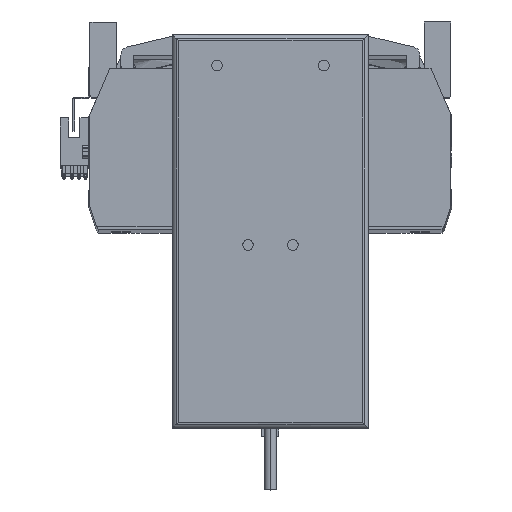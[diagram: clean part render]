
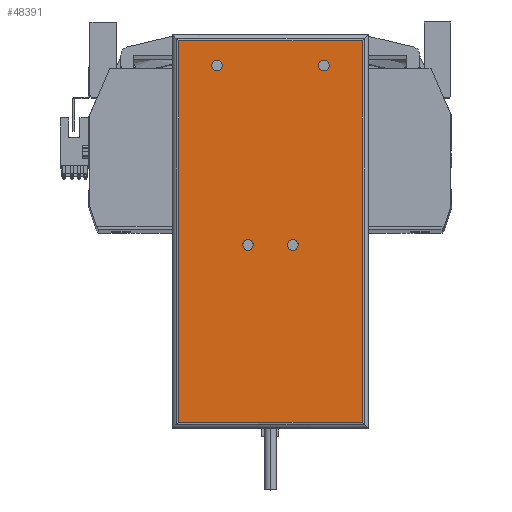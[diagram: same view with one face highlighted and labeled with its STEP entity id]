
A CAD part, top view. The second image highlights one B-rep face of the part: STEP entity #48391.
In plain terms, the highlighted planar face has unit normal (0, 0, 1) as drawn and (0, 0, -1) by its records, which use the part's own axes.
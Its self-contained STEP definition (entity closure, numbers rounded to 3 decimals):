
#169 = VERTEX_POINT ( 'NONE', #14325 ) ;
#739 = DIRECTION ( 'NONE',  ( 0., 0., -1. ) ) ;
#1176 = DIRECTION ( 'NONE',  ( 1., 0., 0. ) ) ;
#1339 = DIRECTION ( 'NONE',  ( 0., 0., -1. ) ) ;
#1452 = CARTESIAN_POINT ( 'NONE',  ( 25., 77.75, 0. ) ) ;
#1698 = LINE ( 'NONE', #16961, #8239 ) ;
#1782 = CARTESIAN_POINT ( 'NONE',  ( -43., -92.25, 0. ) ) ;
#1816 = EDGE_CURVE ( 'NONE', #169, #42967, #28021, .T. ) ;
#2128 = CARTESIAN_POINT ( 'NONE',  ( 43., 89.25, 0. ) ) ;
#2255 = CIRCLE ( 'NONE', #12452, 2.5 ) ;
#2586 = AXIS2_PLACEMENT_3D ( 'NONE', #10002, #13606, #20740 ) ;
#2898 = EDGE_CURVE ( 'NONE', #42967, #169, #26247, .T. ) ;
#2964 = VERTEX_POINT ( 'NONE', #37256 ) ;
#3842 = VERTEX_POINT ( 'NONE', #32865 ) ;
#4220 = VERTEX_POINT ( 'NONE', #45737 ) ;
#5136 = ORIENTED_EDGE ( 'NONE', *, *, #36233, .F. ) ;
#5232 = FACE_BOUND ( 'NONE', #37351, .T. ) ;
#5466 = AXIS2_PLACEMENT_3D ( 'NONE', #23168, #34629, #11946 ) ;
#5596 = VERTEX_POINT ( 'NONE', #36501 ) ;
#7607 = FACE_BOUND ( 'NONE', #43271, .T. ) ;
#8148 = EDGE_CURVE ( 'NONE', #3842, #4220, #19847, .T. ) ;
#8150 = ORIENTED_EDGE ( 'NONE', *, *, #23189, .F. ) ;
#8239 = VECTOR ( 'NONE', #43809, 1000. ) ;
#8606 = ORIENTED_EDGE ( 'NONE', *, *, #8148, .F. ) ;
#10002 = CARTESIAN_POINT ( 'NONE',  ( -10.5, -6.25, 0. ) ) ;
#10656 = EDGE_LOOP ( 'NONE', ( #44382, #17703 ) ) ;
#10772 = EDGE_CURVE ( 'NONE', #21606, #39843, #2255, .T. ) ;
#10835 = EDGE_CURVE ( 'NONE', #45869, #5596, #30772, .T. ) ;
#11168 = AXIS2_PLACEMENT_3D ( 'NONE', #35545, #12487, #42807 ) ;
#11226 = ORIENTED_EDGE ( 'NONE', *, *, #10835, .T. ) ;
#11946 = DIRECTION ( 'NONE',  ( -1., 0., 0. ) ) ;
#12292 = ORIENTED_EDGE ( 'NONE', *, *, #27124, .T. ) ;
#12452 = AXIS2_PLACEMENT_3D ( 'NONE', #1452, #39571, #20162 ) ;
#12487 = DIRECTION ( 'NONE',  ( 0., 0., -1. ) ) ;
#13516 = EDGE_LOOP ( 'NONE', ( #31485, #34061, #11226, #12292 ) ) ;
#13606 = DIRECTION ( 'NONE',  ( 0., 0., -1. ) ) ;
#13722 = AXIS2_PLACEMENT_3D ( 'NONE', #27915, #739, #34898 ) ;
#14245 = CARTESIAN_POINT ( 'NONE',  ( -13., -6.25, 0. ) ) ;
#14325 = CARTESIAN_POINT ( 'NONE',  ( -27.5, 77.75, 0. ) ) ;
#16919 = CIRCLE ( 'NONE', #2586, 2.5 ) ;
#16961 = CARTESIAN_POINT ( 'NONE',  ( 43., -92.25, 0. ) ) ;
#17202 = CIRCLE ( 'NONE', #5466, 2.5 ) ;
#17642 = FACE_BOUND ( 'NONE', #10656, .T. ) ;
#17703 = ORIENTED_EDGE ( 'NONE', *, *, #24350, .F. ) ;
#19663 = EDGE_CURVE ( 'NONE', #19726, #2964, #16919, .T. ) ;
#19726 = VERTEX_POINT ( 'NONE', #14245 ) ;
#19847 = CIRCLE ( 'NONE', #11168, 2.5 ) ;
#19929 = LINE ( 'NONE', #46543, #44244 ) ;
#20050 = CARTESIAN_POINT ( 'NONE',  ( -25., 77.75, 0. ) ) ;
#20162 = DIRECTION ( 'NONE',  ( -1., 0., 0. ) ) ;
#20740 = DIRECTION ( 'NONE',  ( -1., 0., 0. ) ) ;
#20857 = AXIS2_PLACEMENT_3D ( 'NONE', #41083, #44249, #48004 ) ;
#21606 = VERTEX_POINT ( 'NONE', #27991 ) ;
#21985 = CARTESIAN_POINT ( 'NONE',  ( -25., 77.75, 0. ) ) ;
#22317 = CARTESIAN_POINT ( 'NONE',  ( 43., -89.25, 0. ) ) ;
#23168 = CARTESIAN_POINT ( 'NONE',  ( 10.5, -6.25, 0. ) ) ;
#23189 = EDGE_CURVE ( 'NONE', #4220, #3842, #17202, .T. ) ;
#23222 = CARTESIAN_POINT ( 'NONE',  ( 22.5, 77.75, 0. ) ) ;
#24350 = EDGE_CURVE ( 'NONE', #2964, #19726, #31406, .T. ) ;
#24771 = VECTOR ( 'NONE', #45052, 1000. ) ;
#26247 = CIRCLE ( 'NONE', #31093, 2.5 ) ;
#26663 = CARTESIAN_POINT ( 'NONE',  ( -43., -89.25, 0. ) ) ;
#27124 = EDGE_CURVE ( 'NONE', #5596, #32667, #19929, .T. ) ;
#27174 = VECTOR ( 'NONE', #46981, 1000. ) ;
#27915 = CARTESIAN_POINT ( 'NONE',  ( -10.5, -6.25, 0. ) ) ;
#27991 = CARTESIAN_POINT ( 'NONE',  ( 27.5, 77.75, 0. ) ) ;
#28021 = CIRCLE ( 'NONE', #45631, 2.5 ) ;
#28983 = CIRCLE ( 'NONE', #46429, 2.5 ) ;
#29648 = PLANE ( 'NONE',  #20857 ) ;
#30131 = FACE_BOUND ( 'NONE', #45320, .T. ) ;
#30772 = LINE ( 'NONE', #1782, #27174 ) ;
#31093 = AXIS2_PLACEMENT_3D ( 'NONE', #20050, #1339, #42935 ) ;
#31119 = DIRECTION ( 'NONE',  ( 0., 0., -1. ) ) ;
#31406 = CIRCLE ( 'NONE', #13722, 2.5 ) ;
#31485 = ORIENTED_EDGE ( 'NONE', *, *, #47737, .T. ) ;
#32667 = VERTEX_POINT ( 'NONE', #2128 ) ;
#32865 = CARTESIAN_POINT ( 'NONE',  ( 13., -6.25, 0. ) ) ;
#34061 = ORIENTED_EDGE ( 'NONE', *, *, #36814, .T. ) ;
#34324 = LINE ( 'NONE', #41266, #24771 ) ;
#34629 = DIRECTION ( 'NONE',  ( 0., 0., -1. ) ) ;
#34898 = DIRECTION ( 'NONE',  ( -1., 0., 0. ) ) ;
#35424 = ORIENTED_EDGE ( 'NONE', *, *, #10772, .F. ) ;
#35545 = CARTESIAN_POINT ( 'NONE',  ( 10.5, -6.25, 0. ) ) ;
#36233 = EDGE_CURVE ( 'NONE', #39843, #21606, #28983, .T. ) ;
#36501 = CARTESIAN_POINT ( 'NONE',  ( -43., 89.25, 0. ) ) ;
#36770 = DIRECTION ( 'NONE',  ( 0., 0., -1. ) ) ;
#36814 = EDGE_CURVE ( 'NONE', #48464, #45869, #34324, .T. ) ;
#37256 = CARTESIAN_POINT ( 'NONE',  ( -8., -6.25, 0. ) ) ;
#37351 = EDGE_LOOP ( 'NONE', ( #8150, #8606 ) ) ;
#37411 = DIRECTION ( 'NONE',  ( -1., 0., 0. ) ) ;
#38699 = DIRECTION ( 'NONE',  ( -1., 0., 0. ) ) ;
#39571 = DIRECTION ( 'NONE',  ( 0., 0., -1. ) ) ;
#39843 = VERTEX_POINT ( 'NONE', #23222 ) ;
#39969 = CARTESIAN_POINT ( 'NONE',  ( -22.5, 77.75, 0. ) ) ;
#41083 = CARTESIAN_POINT ( 'NONE',  ( -46., -92.25, 0. ) ) ;
#41157 = ORIENTED_EDGE ( 'NONE', *, *, #1816, .F. ) ;
#41266 = CARTESIAN_POINT ( 'NONE',  ( -46., -89.25, 0. ) ) ;
#42807 = DIRECTION ( 'NONE',  ( -1., 0., 0. ) ) ;
#42935 = DIRECTION ( 'NONE',  ( -1., 0., 0. ) ) ;
#42967 = VERTEX_POINT ( 'NONE', #39969 ) ;
#43271 = EDGE_LOOP ( 'NONE', ( #5136, #35424 ) ) ;
#43809 = DIRECTION ( 'NONE',  ( 0., -1., 0. ) ) ;
#44244 = VECTOR ( 'NONE', #1176, 1000. ) ;
#44249 = DIRECTION ( 'NONE',  ( 0., 0., 1. ) ) ;
#44344 = FACE_OUTER_BOUND ( 'NONE', #13516, .T. ) ;
#44382 = ORIENTED_EDGE ( 'NONE', *, *, #19663, .F. ) ;
#44660 = ORIENTED_EDGE ( 'NONE', *, *, #2898, .F. ) ;
#45052 = DIRECTION ( 'NONE',  ( -1., 0., 0. ) ) ;
#45320 = EDGE_LOOP ( 'NONE', ( #41157, #44660 ) ) ;
#45631 = AXIS2_PLACEMENT_3D ( 'NONE', #21985, #36770, #37411 ) ;
#45737 = CARTESIAN_POINT ( 'NONE',  ( 8., -6.25, 0. ) ) ;
#45869 = VERTEX_POINT ( 'NONE', #26663 ) ;
#46296 = CARTESIAN_POINT ( 'NONE',  ( 25., 77.75, 0. ) ) ;
#46429 = AXIS2_PLACEMENT_3D ( 'NONE', #46296, #31119, #38699 ) ;
#46543 = CARTESIAN_POINT ( 'NONE',  ( -46., 89.25, 0. ) ) ;
#46981 = DIRECTION ( 'NONE',  ( 0., 1., 0. ) ) ;
#47737 = EDGE_CURVE ( 'NONE', #32667, #48464, #1698, .T. ) ;
#48004 = DIRECTION ( 'NONE',  ( 1., 0., 0. ) ) ;
#48391 = ADVANCED_FACE ( 'NONE', ( #44344, #17642, #5232, #30131, #7607 ), #29648, .F. ) ;
#48464 = VERTEX_POINT ( 'NONE', #22317 ) ;
